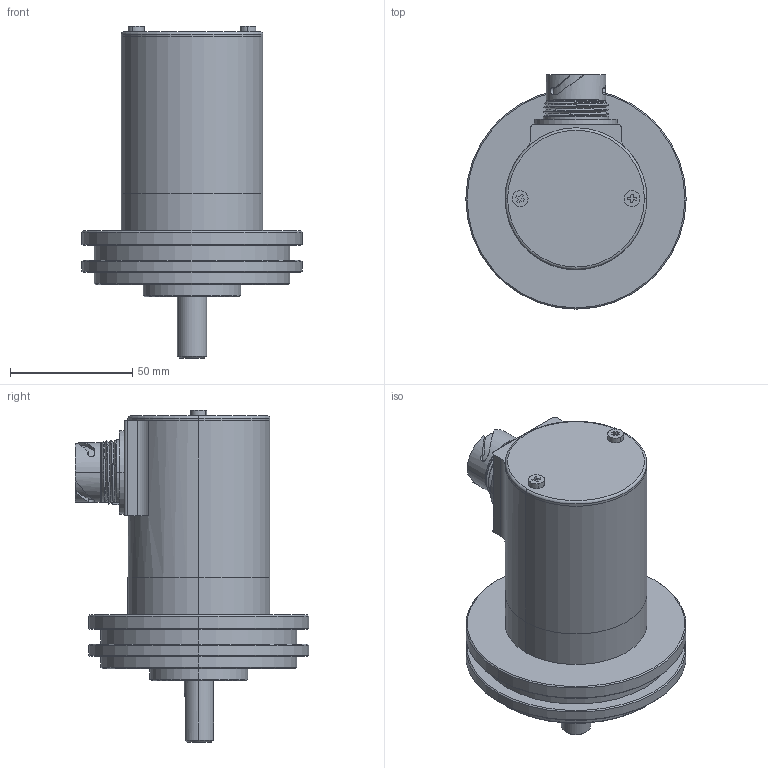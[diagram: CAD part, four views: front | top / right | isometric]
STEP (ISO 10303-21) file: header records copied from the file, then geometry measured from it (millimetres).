
FILE_DESCRIPTION (( 'STEP AP203' ), '1' );
FILE_NAME ('MR346-D00.STEP', '2018-04-10T18:23:30', ( '' ), ( '' ), 'SwSTEP 2.0', 'SolidWorks 2017', '' );
FILE_SCHEMA (( 'CONFIG_CONTROL_DESIGN' ));
Length unit declared in the file: inch
Products named in the file (1): MR346-D00
Bounding box: 90 x 95.61 x 135.66 mm (x, y, z)
Surface area: 78677.4 mm2 (no closed solid volume)
Topology: 0 solids, 15 shells, 714 faces, 1957 edges, 1289 vertices
Faces by surface type: plane 274, cylinder 232, cone 155, bspline 47, torus 6
Entity records: 30646 total; most frequent: CARTESIAN_POINT 13225, ORIENTED_EDGE 3583, DIRECTION 3374, EDGE_CURVE 1940, VERTEX_POINT 1293, AXIS2_PLACEMENT_3D 1152, VECTOR 1070, LINE 1070
